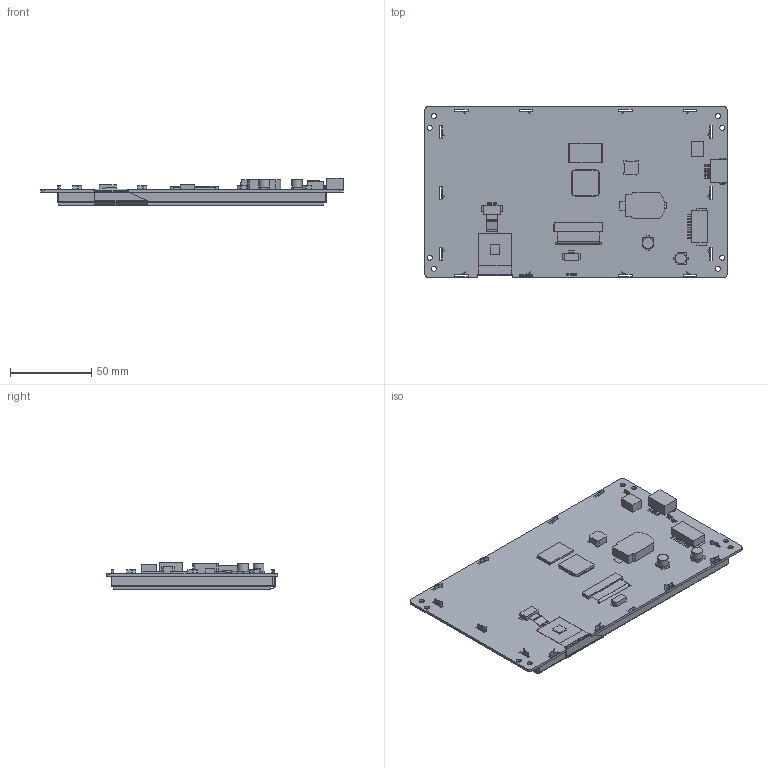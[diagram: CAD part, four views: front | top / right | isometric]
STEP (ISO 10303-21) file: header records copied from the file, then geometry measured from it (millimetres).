
FILE_DESCRIPTION(/* description */ (''),/* implementation_level */ '2;1');
FILE_NAME(/* name */ '3D_SDWe070T77C.stp',/* time_stamp */ '2020-09-10T17:14:08+08:00',/* author */ (''),/* organization */ (''),/* preprocessor_version */ 'ST-DEVELOPER v15',/* originating_system */ 'SIEMENS PLM Software NX 8.5',/* authorisation */ '');
FILE_SCHEMA (('AP203_CONFIGURATION_CONTROLLED_3D_DESIGN_OF_MECHANICAL_PARTS_AND_ASSEMBLIES_MIM_LF { 1 0 10303 403 2 1 2}'));
Length unit declared in the file: millimetre
Products named in the file (1): SDWe070T77
Bounding box: 186.3 x 105.4 x 17.11 mm (x, y, z)
Volume: 249285.6 mm3; surface area: 165415.1 mm2
Topology: 329 solids, 329 shells, 2229 faces, 4687 edges, 3116 vertices
Faces by surface type: plane 2156, cylinder 65, extrusion 8
Full cylindrical faces by diameter (mm): 3.2 x8, 6.567 x1, 6.776 x1
Entity records: 62789 total; most frequent: CARTESIAN_POINT 10421, ORIENTED_EDGE 9346, DIRECTION 9197, EDGE_CURVE 4673, VECTOR 4493, LINE 4485, VERTEX_POINT 3116, AXIS2_PLACEMENT_3D 2352
